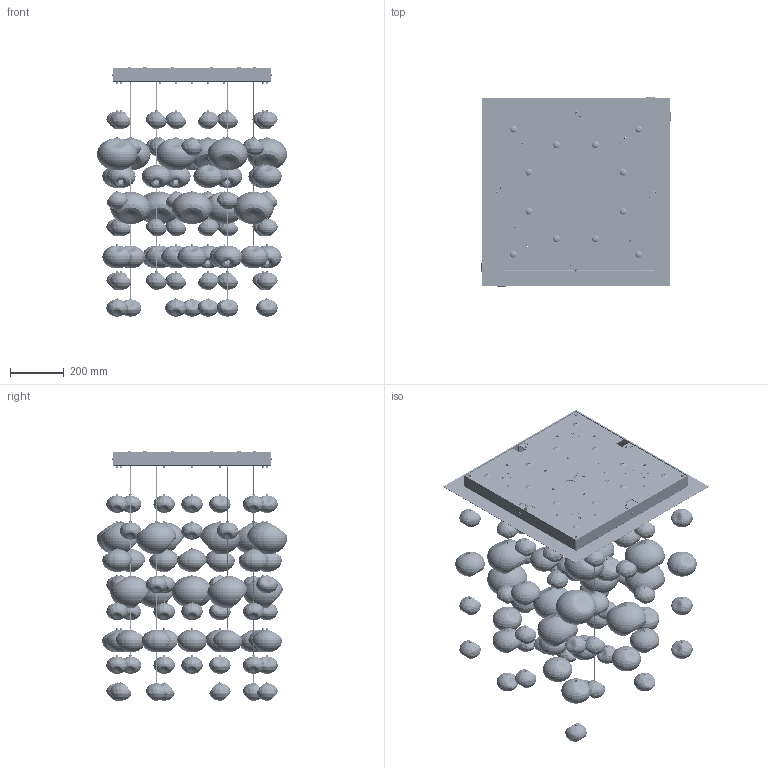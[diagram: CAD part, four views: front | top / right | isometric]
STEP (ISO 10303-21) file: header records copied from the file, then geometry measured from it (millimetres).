
FILE_DESCRIPTION(/* description */ (''),/* implementation_level */ '2;1');
FILE_NAME(/* name */ 'ETHER SQUARE C',/* time_stamp */ '2025-09-04T16:34:35+02:00',/* author */ (''),/* organization */ (''),/* preprocessor_version */ 'ST-DEVELOPER v16.5',/* originating_system */ 'Rhino 7.38',/* authorisation */ '');
FILE_SCHEMA (('CONFIG_CONTROL_DESIGN'));
Products named in the file (48): Document; 146C020-A; 146C016-C; 146C015; 146C014; 146C013; SEEGER N.4 ZINCATO minetti; 146C011; DADO M4 DIN934 ZB; RONDELLA DENTELLATA ESTERNA M4; Z0033; Z0008; K011; RONDELLA M4 D.12 H1 ZINCATA DIN9021; VITE TCEI M4X6 UNI5931 ZB; X0072; Z0009; 146C006; VITE TCEI M4X12 UNI5931 ZB; W027; 146C010-G-927; Z0022; C026-927; C005; C008; B005; Vite TSP CR M3x8 zincata; VITE TC AUTOFIL M2,9X9,5 ZN UNI6954AB DIN7981C; K001; R001-36; 146C005; RONDELLA Ø7 H2 F.Ø3.2 STEAB 5021-2-118; VITE AUTOFIL. Ø2.9X6.5 TCC UNI 6954 AB; VITE TCEI M3X25 UNI5931 ZB; E007-0,5A; W037; Z017-P; W042; W044; 146C009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
Assembly tree (191 placements, depth 3):
  Document
    146C020-A  x7
      146C016-C
      146C015
      146C014
      146C013
      SEEGER N.4 ZINCATO minetti
      146C011
    DADO M4 DIN934 ZB  x4
    RONDELLA DENTELLATA ESTERNA M4  x4
    Z0033  x4
      Z0008
      K011
    RONDELLA M4 D.12 H1 ZINCATA DIN9021  x4
    VITE TCEI M4X6 UNI5931 ZB  x4
    X0072  x22
    Z0009  x22
    146C006  x22
    VITE TCEI M4X12 UNI5931 ZB  x4
    W027
    146C010-G-927  x4
      Z0022
      C026-927
      C005
      C008
      B005
      Vite TSP CR M3x8 zincata
      VITE TC AUTOFIL M2,9X9,5 ZN UNI6954AB DIN7981C
      K001
      R001-36
      146C005
      RONDELLA Ø7 H2 F.Ø3.2 STEAB 5021-2-118
      VITE AUTOFIL. Ø2.9X6.5 TCC UNI 6954 AB
      VITE TCEI M3X25 UNI5931 ZB
      E007-0,5A
      W037
      Z017-P
      W042
      W044
    146C009
      146C009-1
      146C009-2
      X0057-008  x5
    146C003
    146C020-E  x7
      146C016-A
      146C013
      146C015
      146C014
      146C011
      SEEGER N.4 ZINCATO minetti
    146C020-B  x8
      146C016-D
      146C014
      SEEGER N.4 ZINCATO minetti
      146C011
      146C013
Bounding box: 708.55 x 708.46 x 928.81 mm (x, y, z)
Volume: 5109384 mm3; surface area: 6790756.9 mm2
Topology: 496 solids, 518 shells, 18034 faces, 46641 edges, 30622 vertices
Faces by surface type: plane 9126, cylinder 5287, bspline 3621
Full cylindrical faces by diameter (mm): 0.65 x5, 0.88 x8, 1 x86, 1.02 x1, 1.15 x16, 1.25 x4, 1.5 x16, 2 x44, 2.25 x8, 2.3 x16, 2.459 x19, 2.8 x8, 2.9 x29, 3 x109, 3.1 x8, 3.2 x12, 3.242 x12, 3.3 x30, 3.5 x22, 4 x43, 4.3 x12, 4.9 x4, 5 x8, 5.5 x21, 5.6 x8, 5.8 x4, 6 x22, 6.5 x56, 6.6 x8, 7 x30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
Entity records: 364903 total; most frequent: CARTESIAN_POINT 296007, ORIENTED_EDGE 15989, EDGE_CURVE 7996, VERTEX_POINT 5272, B_SPLINE_CURVE_WITH_KNOTS 5038, EDGE_LOOP 3444, ADVANCED_FACE 2966, FACE_OUTER_BOUND 2966
